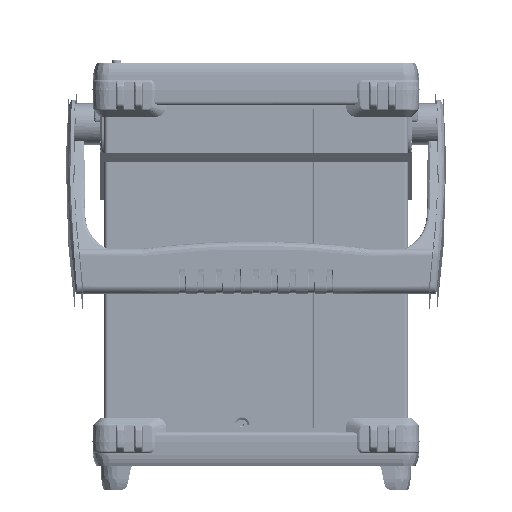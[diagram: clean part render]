
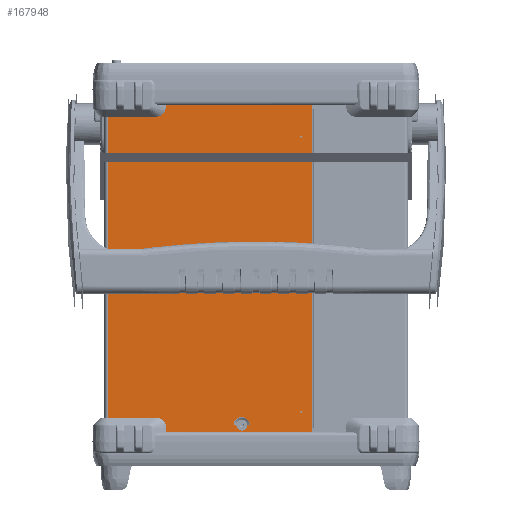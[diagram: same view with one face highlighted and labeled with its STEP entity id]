
A CAD part, front view. The second image highlights one B-rep face of the part: STEP entity #167948.
In plain terms, the highlighted planar face has unit normal (0, -1, 0).
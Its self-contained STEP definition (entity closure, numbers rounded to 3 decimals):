
#166465=DIRECTION('',(0.,0.,-1.));
#166466=VECTOR('',#166465,244.1);
#166467=CARTESIAN_POINT('',(-104.5,-41.3,0.));
#166468=LINE('',#166467,#166466);
#166469=CARTESIAN_POINT('',(32.,-41.3,-25.));
#166470=DIRECTION('',(0.,-1.,0.));
#166471=DIRECTION('',(-1.,0.,0.));
#166472=AXIS2_PLACEMENT_3D('',#166469,#166470,#166471);
#166474=CARTESIAN_POINT('',(32.,-41.3,-25.));
#166475=DIRECTION('',(0.,-1.,0.));
#166476=DIRECTION('',(1.,0.,0.));
#166477=AXIS2_PLACEMENT_3D('',#166474,#166475,#166476);
#166479=CARTESIAN_POINT('',(32.,-41.3,-122.05));
#166480=DIRECTION('',(0.,-1.,0.));
#166481=DIRECTION('',(-1.,0.,0.));
#166482=AXIS2_PLACEMENT_3D('',#166479,#166480,#166481);
#166484=CARTESIAN_POINT('',(32.,-41.3,-122.05));
#166485=DIRECTION('',(0.,-1.,0.));
#166486=DIRECTION('',(1.,0.,0.));
#166487=AXIS2_PLACEMENT_3D('',#166484,#166485,#166486);
#166489=CARTESIAN_POINT('',(32.,-41.3,-219.1));
#166490=DIRECTION('',(0.,-1.,0.));
#166491=DIRECTION('',(-1.,0.,0.));
#166492=AXIS2_PLACEMENT_3D('',#166489,#166490,#166491);
#166494=CARTESIAN_POINT('',(32.,-41.3,-219.1));
#166495=DIRECTION('',(0.,-1.,0.));
#166496=DIRECTION('',(1.,0.,0.));
#166497=AXIS2_PLACEMENT_3D('',#166494,#166495,#166496);
#166499=DIRECTION('',(-1.,0.,0.));
#166500=VECTOR('',#166499,2.04);
#166501=CARTESIAN_POINT('',(-4.285,-41.3,-228.7));
#166502=LINE('',#166501,#166500);
#166503=CARTESIAN_POINT('',(-10.075,-41.3,-228.7));
#166504=DIRECTION('',(0.,1.,0.));
#166505=DIRECTION('',(-1.,0.,0.));
#166506=AXIS2_PLACEMENT_3D('',#166503,#166504,#166505);
#166508=DIRECTION('',(-1.,0.,0.));
#166509=VECTOR('',#166508,2.04);
#166510=CARTESIAN_POINT('',(-13.825,-41.3,-228.7));
#166511=LINE('',#166510,#166509);
#166512=CARTESIAN_POINT('',(-10.075,-41.3,-228.7));
#166513=DIRECTION('',(0.,1.,0.));
#166514=DIRECTION('',(1.,0.,0.));
#166515=AXIS2_PLACEMENT_3D('',#166512,#166513,#166514);
#166517=DIRECTION('',(1.,0.,0.));
#166518=VECTOR('',#166517,144.3);
#166519=CARTESIAN_POINT('',(-104.5,-41.3,0.));
#166520=LINE('',#166519,#166518);
#166561=DIRECTION('',(1.,0.,0.));
#166562=VECTOR('',#166561,144.3);
#166563=CARTESIAN_POINT('',(-104.5,-41.3,-244.1));
#166564=LINE('',#166563,#166562);
#166573=DIRECTION('',(0.,0.,-1.));
#166574=VECTOR('',#166573,244.1);
#166575=CARTESIAN_POINT('',(39.8,-41.3,0.));
#166576=LINE('',#166575,#166574);
#167605=CARTESIAN_POINT('',(-104.5,-41.3,0.));
#167606=CARTESIAN_POINT('',(39.8,-41.3,0.));
#167607=VERTEX_POINT('',#167605);
#167608=VERTEX_POINT('',#167606);
#167621=CARTESIAN_POINT('',(-104.5,-41.3,-244.1));
#167622=CARTESIAN_POINT('',(39.8,-41.3,-244.1));
#167623=VERTEX_POINT('',#167621);
#167624=VERTEX_POINT('',#167622);
#167789=CARTESIAN_POINT('',(31.3,-41.3,-25.));
#167790=CARTESIAN_POINT('',(32.7,-41.3,-25.));
#167791=VERTEX_POINT('',#167789);
#167792=VERTEX_POINT('',#167790);
#167805=CARTESIAN_POINT('',(31.3,-41.3,-122.05));
#167806=CARTESIAN_POINT('',(32.7,-41.3,-122.05));
#167807=VERTEX_POINT('',#167805);
#167808=VERTEX_POINT('',#167806);
#167821=CARTESIAN_POINT('',(31.3,-41.3,-219.1));
#167822=CARTESIAN_POINT('',(32.7,-41.3,-219.1));
#167823=VERTEX_POINT('',#167821);
#167824=VERTEX_POINT('',#167822);
#167849=CARTESIAN_POINT('',(-4.285,-41.3,-228.7));
#167850=CARTESIAN_POINT('',(-6.325,-41.3,-228.7));
#167851=VERTEX_POINT('',#167849);
#167852=VERTEX_POINT('',#167850);
#167853=CARTESIAN_POINT('',(-13.825,-41.3,-228.7));
#167854=CARTESIAN_POINT('',(-15.865,-41.3,-228.7));
#167855=VERTEX_POINT('',#167853);
#167856=VERTEX_POINT('',#167854);
#167905=CARTESIAN_POINT('',(-104.5,-41.3,0.));
#167906=DIRECTION('',(0.,-1.,0.));
#167907=DIRECTION('',(1.,0.,0.));
#167908=AXIS2_PLACEMENT_3D('',#167905,#167906,#167907);
#167909=PLANE('',#167908);
#167911=ORIENTED_EDGE('',*,*,#167910,.T.);
#167913=ORIENTED_EDGE('',*,*,#167912,.T.);
#167915=ORIENTED_EDGE('',*,*,#167914,.F.);
#167917=ORIENTED_EDGE('',*,*,#167916,.F.);
#167918=EDGE_LOOP('',(#167911,#167913,#167915,#167917));
#167919=FACE_OUTER_BOUND('',#167918,.F.);
#167921=ORIENTED_EDGE('',*,*,#167920,.T.);
#167923=ORIENTED_EDGE('',*,*,#167922,.T.);
#167924=EDGE_LOOP('',(#167921,#167923));
#167925=FACE_BOUND('',#167924,.F.);
#167927=ORIENTED_EDGE('',*,*,#167926,.T.);
#167929=ORIENTED_EDGE('',*,*,#167928,.T.);
#167930=EDGE_LOOP('',(#167927,#167929));
#167931=FACE_BOUND('',#167930,.F.);
#167933=ORIENTED_EDGE('',*,*,#167932,.T.);
#167935=ORIENTED_EDGE('',*,*,#167934,.T.);
#167936=EDGE_LOOP('',(#167933,#167935));
#167937=FACE_BOUND('',#167936,.F.);
#167939=ORIENTED_EDGE('',*,*,#167938,.F.);
#167941=ORIENTED_EDGE('',*,*,#167940,.F.);
#167943=ORIENTED_EDGE('',*,*,#167942,.F.);
#167945=ORIENTED_EDGE('',*,*,#167944,.F.);
#167946=EDGE_LOOP('',(#167939,#167941,#167943,#167945));
#167947=FACE_BOUND('',#167946,.F.);
#167948=ADVANCED_FACE('',(#167919,#167925,#167931,#167937,#167947),#167909,.T.);
#166473=CIRCLE('',#166472,0.7);
#166478=CIRCLE('',#166477,0.7);
#166483=CIRCLE('',#166482,0.7);
#166488=CIRCLE('',#166487,0.7);
#166493=CIRCLE('',#166492,0.7);
#166498=CIRCLE('',#166497,0.7);
#166507=CIRCLE('',#166506,5.79);
#166516=CIRCLE('',#166515,3.75);
#167910=EDGE_CURVE('',#167607,#167608,#166520,.T.);
#167912=EDGE_CURVE('',#167608,#167624,#166576,.T.);
#167914=EDGE_CURVE('',#167623,#167624,#166564,.T.);
#167916=EDGE_CURVE('',#167607,#167623,#166468,.T.);
#167920=EDGE_CURVE('',#167791,#167792,#166473,.T.);
#167922=EDGE_CURVE('',#167792,#167791,#166478,.T.);
#167926=EDGE_CURVE('',#167807,#167808,#166483,.T.);
#167928=EDGE_CURVE('',#167808,#167807,#166488,.T.);
#167932=EDGE_CURVE('',#167823,#167824,#166493,.T.);
#167934=EDGE_CURVE('',#167824,#167823,#166498,.T.);
#167938=EDGE_CURVE('',#167851,#167852,#166502,.T.);
#167940=EDGE_CURVE('',#167856,#167851,#166507,.T.);
#167942=EDGE_CURVE('',#167855,#167856,#166511,.T.);
#167944=EDGE_CURVE('',#167852,#167855,#166516,.T.);
